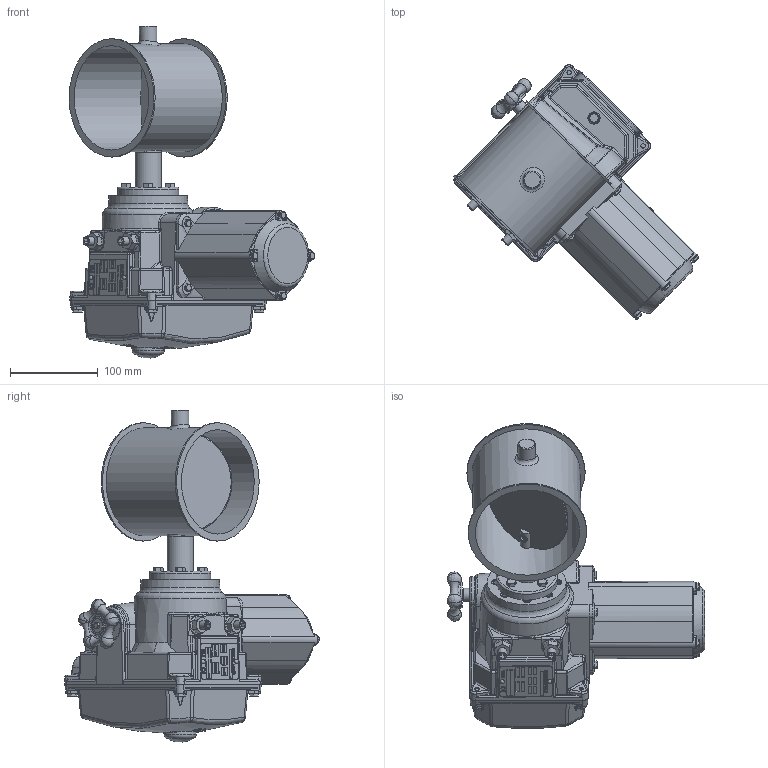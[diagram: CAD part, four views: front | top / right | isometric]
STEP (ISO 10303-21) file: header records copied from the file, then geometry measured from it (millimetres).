
FILE_DESCRIPTION((''),'2;1');
FILE_NAME('U:\Wolfgang\Marcel-3D\fertig\Kapitel 8\1221217.stp','2011-05-03T15:03:27',('TK1'),(''),'Autodesk Inventor 2010','Autodesk Inventor 2010','');
FILE_SCHEMA(('AUTOMOTIVE_DESIGN { 1 0 10303 214 1 1 1 1 }'));
Length unit declared in the file: millimetre
Products named in the file (9): 1221217; Bolzen D15; Scheibe120b; DIN 6912 M6 x 16; 1221211-1; D15 Antrieb Le-4; BuchseD15 70-50; DIN EN ISO 4018 M6x25; LEB45cc
Assembly tree (13 placements, depth 3):
  1221217
    Bolzen D15  x2
    Scheibe120b
    DIN 6912 M6 x 16  x2
    1221211-1
    D15 Antrieb Le-4
      BuchseD15 70-50
      DIN EN ISO 4018 M6x25  x4
      LEB45cc
Bounding box: 280.38 x 290.8 x 378.82 mm (x, y, z)
Volume: 4229862.8 mm3; surface area: 388623.4 mm2
Topology: 12 solids, 12 shells, 1480 faces, 3733 edges, 2344 vertices
Faces by surface type: plane 752, cylinder 283, bspline 237, torus 82, cone 81, sphere 45
Full cylindrical faces by diameter (mm): 3 x2, 5 x4, 5.1 x8, 6 x14, 6.9 x8, 10 x6, 14 x2, 15 x3, 15.5 x1, 16 x1, 17 x1, 18.6 x2, 20 x1, 24 x1, 30 x2, 35 x1, 42 x1, 70 x1, 119 x2, 123 x1, 135 x2
Entity records: 51174 total; most frequent: CARTESIAN_POINT 19096, ORIENTED_EDGE 6614, DIRECTION 5790, EDGE_CURVE 3307, VERTEX_POINT 2176, AXIS2_PLACEMENT_3D 2034, VECTOR 1722, LINE 1722
